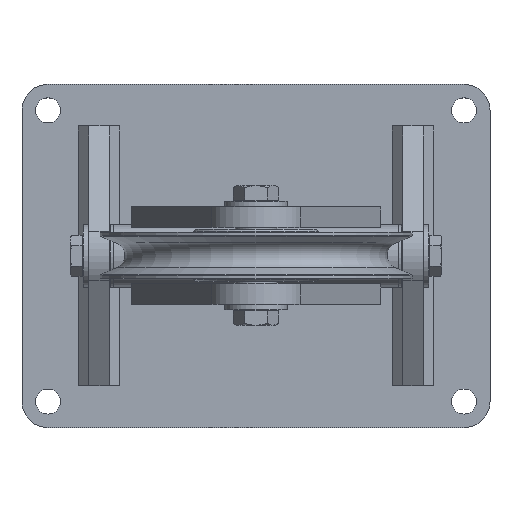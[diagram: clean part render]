
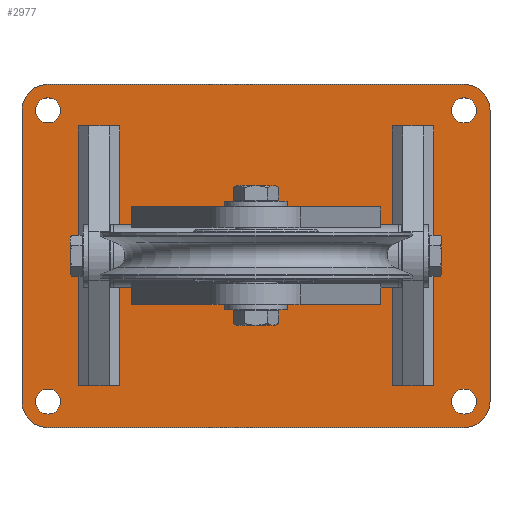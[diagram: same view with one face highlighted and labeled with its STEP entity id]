
A CAD part, top view. The second image highlights one B-rep face of the part: STEP entity #2977.
In plain terms, the highlighted planar face has unit normal (0, 0, 1).
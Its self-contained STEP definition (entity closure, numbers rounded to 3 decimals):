
#177=FACE_BOUND('',#704,.T.);
#178=FACE_BOUND('',#705,.T.);
#179=FACE_BOUND('',#706,.T.);
#180=FACE_BOUND('',#707,.T.);
#211=CIRCLE('',#3502,6.);
#212=CIRCLE('',#3503,6.);
#214=CIRCLE('',#3506,6.);
#215=CIRCLE('',#3507,6.);
#217=CIRCLE('',#3510,6.);
#218=CIRCLE('',#3511,6.);
#220=CIRCLE('',#3514,6.);
#221=CIRCLE('',#3515,6.);
#223=CIRCLE('',#3518,12.5);
#225=CIRCLE('',#3522,12.5);
#226=CIRCLE('',#3523,12.5);
#227=CIRCLE('',#3524,12.5);
#521=FACE_OUTER_BOUND('',#703,.T.);
#703=EDGE_LOOP('',(#2115,#2116,#2117,#2118,#2119,#2120,#2121,#2122));
#704=EDGE_LOOP('',(#2123,#2124));
#705=EDGE_LOOP('',(#2125,#2126));
#706=EDGE_LOOP('',(#2127,#2128));
#707=EDGE_LOOP('',(#2129,#2130));
#935=LINE('',#5010,#1147);
#938=LINE('',#5016,#1150);
#939=LINE('',#5020,#1151);
#940=LINE('',#5024,#1152);
#1147=VECTOR('',#4005,10.);
#1150=VECTOR('',#4010,10.);
#1151=VECTOR('',#4013,10.);
#1152=VECTOR('',#4016,10.);
#1341=VERTEX_POINT('',#4968);
#1342=VERTEX_POINT('',#4969);
#1344=VERTEX_POINT('',#4976);
#1345=VERTEX_POINT('',#4977);
#1347=VERTEX_POINT('',#4984);
#1348=VERTEX_POINT('',#4985);
#1350=VERTEX_POINT('',#4992);
#1351=VERTEX_POINT('',#4993);
#1353=VERTEX_POINT('',#5000);
#1354=VERTEX_POINT('',#5001);
#1357=VERTEX_POINT('',#5009);
#1359=VERTEX_POINT('',#5015);
#1360=VERTEX_POINT('',#5017);
#1361=VERTEX_POINT('',#5019);
#1362=VERTEX_POINT('',#5021);
#1363=VERTEX_POINT('',#5023);
#1635=EDGE_CURVE('',#1341,#1342,#211,.T.);
#1636=EDGE_CURVE('',#1342,#1341,#212,.T.);
#1639=EDGE_CURVE('',#1344,#1345,#214,.T.);
#1640=EDGE_CURVE('',#1345,#1344,#215,.T.);
#1643=EDGE_CURVE('',#1347,#1348,#217,.T.);
#1644=EDGE_CURVE('',#1348,#1347,#218,.T.);
#1647=EDGE_CURVE('',#1350,#1351,#220,.T.);
#1648=EDGE_CURVE('',#1351,#1350,#221,.T.);
#1651=EDGE_CURVE('',#1353,#1354,#223,.T.);
#1655=EDGE_CURVE('',#1357,#1354,#935,.T.);
#1658=EDGE_CURVE('',#1353,#1359,#938,.T.);
#1659=EDGE_CURVE('',#1360,#1359,#225,.T.);
#1660=EDGE_CURVE('',#1360,#1361,#939,.T.);
#1661=EDGE_CURVE('',#1362,#1361,#226,.T.);
#1662=EDGE_CURVE('',#1362,#1363,#940,.T.);
#1663=EDGE_CURVE('',#1357,#1363,#227,.T.);
#2115=ORIENTED_EDGE('',*,*,#1651,.F.);
#2116=ORIENTED_EDGE('',*,*,#1658,.T.);
#2117=ORIENTED_EDGE('',*,*,#1659,.F.);
#2118=ORIENTED_EDGE('',*,*,#1660,.T.);
#2119=ORIENTED_EDGE('',*,*,#1661,.F.);
#2120=ORIENTED_EDGE('',*,*,#1662,.T.);
#2121=ORIENTED_EDGE('',*,*,#1663,.F.);
#2122=ORIENTED_EDGE('',*,*,#1655,.T.);
#2123=ORIENTED_EDGE('',*,*,#1635,.T.);
#2124=ORIENTED_EDGE('',*,*,#1636,.T.);
#2125=ORIENTED_EDGE('',*,*,#1639,.T.);
#2126=ORIENTED_EDGE('',*,*,#1640,.T.);
#2127=ORIENTED_EDGE('',*,*,#1643,.T.);
#2128=ORIENTED_EDGE('',*,*,#1644,.T.);
#2129=ORIENTED_EDGE('',*,*,#1647,.T.);
#2130=ORIENTED_EDGE('',*,*,#1648,.T.);
#2868=PLANE('',#3521);
#2977=ADVANCED_FACE('',(#521,#177,#178,#179,#180),#2868,.T.);
#3502=AXIS2_PLACEMENT_3D('',#4970,#3961,#3962);
#3503=AXIS2_PLACEMENT_3D('',#4971,#3963,#3964);
#3506=AXIS2_PLACEMENT_3D('',#4978,#3970,#3971);
#3507=AXIS2_PLACEMENT_3D('',#4979,#3972,#3973);
#3510=AXIS2_PLACEMENT_3D('',#4986,#3979,#3980);
#3511=AXIS2_PLACEMENT_3D('',#4987,#3981,#3982);
#3514=AXIS2_PLACEMENT_3D('',#4994,#3988,#3989);
#3515=AXIS2_PLACEMENT_3D('',#4995,#3990,#3991);
#3518=AXIS2_PLACEMENT_3D('',#5002,#3997,#3998);
#3521=AXIS2_PLACEMENT_3D('',#5014,#4008,#4009);
#3522=AXIS2_PLACEMENT_3D('',#5018,#4011,#4012);
#3523=AXIS2_PLACEMENT_3D('',#5022,#4014,#4015);
#3524=AXIS2_PLACEMENT_3D('',#5025,#4017,#4018);
#3961=DIRECTION('center_axis',(0.,0.,-1.));
#3962=DIRECTION('ref_axis',(1.,0.,0.));
#3963=DIRECTION('center_axis',(0.,0.,-1.));
#3964=DIRECTION('ref_axis',(1.,0.,0.));
#3970=DIRECTION('center_axis',(0.,0.,-1.));
#3971=DIRECTION('ref_axis',(1.,0.,0.));
#3972=DIRECTION('center_axis',(0.,0.,-1.));
#3973=DIRECTION('ref_axis',(1.,0.,0.));
#3979=DIRECTION('center_axis',(0.,0.,-1.));
#3980=DIRECTION('ref_axis',(1.,0.,0.));
#3981=DIRECTION('center_axis',(0.,0.,-1.));
#3982=DIRECTION('ref_axis',(1.,0.,0.));
#3988=DIRECTION('center_axis',(0.,0.,-1.));
#3989=DIRECTION('ref_axis',(1.,0.,0.));
#3990=DIRECTION('center_axis',(0.,0.,-1.));
#3991=DIRECTION('ref_axis',(1.,0.,0.));
#3997=DIRECTION('center_axis',(0.,0.,-1.));
#3998=DIRECTION('ref_axis',(0.707,-0.707,0.));
#4005=DIRECTION('',(1.,0.,0.));
#4008=DIRECTION('center_axis',(0.,0.,1.));
#4009=DIRECTION('ref_axis',(1.,0.,0.));
#4010=DIRECTION('',(0.,1.,0.));
#4011=DIRECTION('center_axis',(0.,0.,-1.));
#4012=DIRECTION('ref_axis',(0.707,0.707,0.));
#4013=DIRECTION('',(-1.,0.,0.));
#4014=DIRECTION('center_axis',(0.,0.,-1.));
#4015=DIRECTION('ref_axis',(-0.707,0.707,0.));
#4016=DIRECTION('',(0.,-1.,0.));
#4017=DIRECTION('center_axis',(0.,0.,-1.));
#4018=DIRECTION('ref_axis',(-0.707,-0.707,0.));
#4968=CARTESIAN_POINT('',(106.,-70.,10.));
#4969=CARTESIAN_POINT('',(94.,-70.,10.));
#4970=CARTESIAN_POINT('Origin',(100.,-70.,10.));
#4971=CARTESIAN_POINT('Origin',(100.,-70.,10.));
#4976=CARTESIAN_POINT('',(-94.,70.,10.));
#4977=CARTESIAN_POINT('',(-106.,70.,10.));
#4978=CARTESIAN_POINT('Origin',(-100.,70.,10.));
#4979=CARTESIAN_POINT('Origin',(-100.,70.,10.));
#4984=CARTESIAN_POINT('',(106.,70.,10.));
#4985=CARTESIAN_POINT('',(94.,70.,10.));
#4986=CARTESIAN_POINT('Origin',(100.,70.,10.));
#4987=CARTESIAN_POINT('Origin',(100.,70.,10.));
#4992=CARTESIAN_POINT('',(-94.,-70.,10.));
#4993=CARTESIAN_POINT('',(-106.,-70.,10.));
#4994=CARTESIAN_POINT('Origin',(-100.,-70.,10.));
#4995=CARTESIAN_POINT('Origin',(-100.,-70.,10.));
#5000=CARTESIAN_POINT('',(112.5,-70.,10.));
#5001=CARTESIAN_POINT('',(100.,-82.5,10.));
#5002=CARTESIAN_POINT('Origin',(100.,-70.,10.));
#5009=CARTESIAN_POINT('',(-100.,-82.5,10.));
#5010=CARTESIAN_POINT('',(112.5,-82.5,10.));
#5014=CARTESIAN_POINT('Origin',(0.,0.,10.));
#5015=CARTESIAN_POINT('',(112.5,70.,10.));
#5016=CARTESIAN_POINT('',(112.5,82.5,10.));
#5017=CARTESIAN_POINT('',(100.,82.5,10.));
#5018=CARTESIAN_POINT('Origin',(100.,70.,10.));
#5019=CARTESIAN_POINT('',(-100.,82.5,10.));
#5020=CARTESIAN_POINT('',(-112.5,82.5,10.));
#5021=CARTESIAN_POINT('',(-112.5,70.,10.));
#5022=CARTESIAN_POINT('Origin',(-100.,70.,10.));
#5023=CARTESIAN_POINT('',(-112.5,-70.,10.));
#5024=CARTESIAN_POINT('',(-112.5,-82.5,10.));
#5025=CARTESIAN_POINT('Origin',(-100.,-70.,10.));
